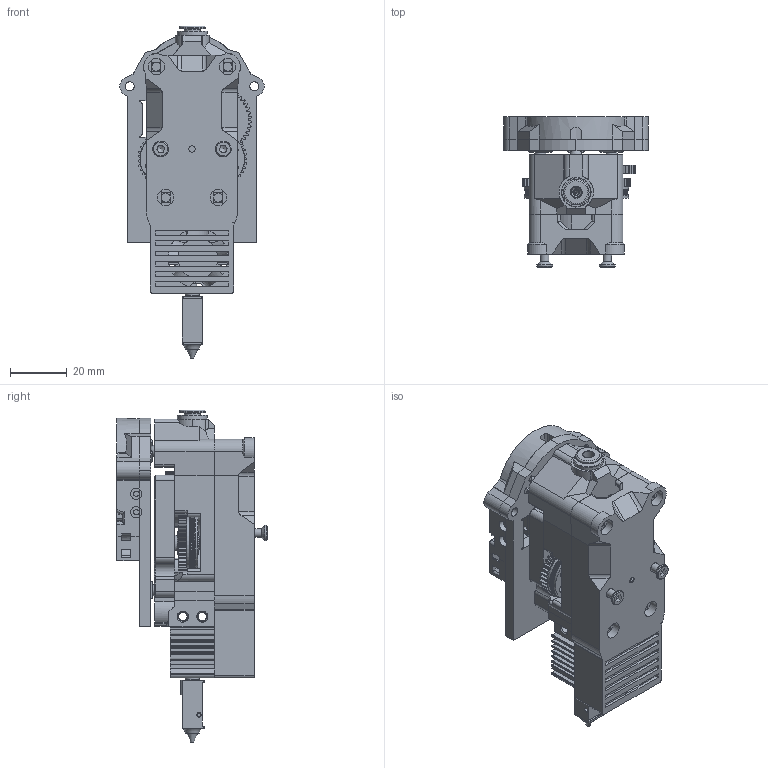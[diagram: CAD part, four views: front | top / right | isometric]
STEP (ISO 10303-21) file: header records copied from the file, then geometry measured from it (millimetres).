
FILE_DESCRIPTION(('HOOPS Exchange Step'),'2;1');
FILE_NAME('/Users/rileymahr/Library/Containers/com.shapr3d.shapr/Data/tmp/export/temp_export','2026-11-22T11:07:59-06:00',('rileymahr'),('Shapr3D Limited'),'HOOPS Exchange 2026.7','Shapr3D','Authorized');
FILE_SCHEMA( ('AP242_MANAGED_MODEL_BASED_3D_ENGINEERING_MIM_LF {1 0 10303 442 1 1 4}') );
Length unit declared in the file: millimetre
Products named in the file (15): Alignment Pin Right:1 (1); Maxwell (1); FAN DC12V 2510.STEP (1); M3X6 SHCS v1:10 (1); BBL Clone Hotend (1); ProtoXtruder Gearpack (1); Plunger:1 (1); Collet Body:1 (1); Seal Retainer:1 (1); Grab Ring:1 (1); ECAS Bowden Collet (1); Toolhead Hardware (1); Tool (1); Blank Mechanism; root
Assembly tree (14 placements, depth 6):
  root
    Blank Mechanism
      Maxwell (1)
        Alignment Pin Right:1 (1)
      Tool (1)
        FAN DC12V 2510.STEP (1)
        M3X6 SHCS v1:10 (1)
        BBL Clone Hotend (1)
        Toolhead Hardware (1)
          ProtoXtruder Gearpack (1)
          ECAS Bowden Collet (1)
            Plunger:1 (1)
            Collet Body:1 (1)
            Seal Retainer:1 (1)
            Grab Ring:1 (1)
Bounding box: 50.7 x 52.76 x 116.68 mm (x, y, z)
Volume: 80023.3 mm3; surface area: 59372.6 mm2
Topology: 38 solids, 39 shells, 4182 faces, 11174 edges, 7313 vertices
Faces by surface type: plane 1620, cylinder 1582, bspline 672, cone 256, torus 49, sphere 3
Full cylindrical faces by diameter (mm): 0.4 x1, 1.4 x1, 1.8 x1, 2 x6, 2.2 x7, 2.3 x1, 2.4 x5, 2.6 x1, 2.7 x2, 2.9 x4, 3 x41, 3.15 x8, 3.16 x1, 3.17 x1, 3.2 x16, 3.8 x1, 4 x4, 4.1 x3, 4.2 x1, 4.25 x3, 4.5 x1, 4.7 x7, 4.99 x1, 5 x3, 5.5 x4, 5.8 x7, 6 x12, 6.15 x1, 6.2 x1, 6.5 x1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
Entity records: 191385 total; most frequent: CARTESIAN_POINT 89808, ORIENTED_EDGE 22334, DIRECTION 19368, EDGE_CURVE 11167, VERTEX_POINT 7311, AXIS2_PLACEMENT_3D 7265, VECTOR 4838, LINE 4838
